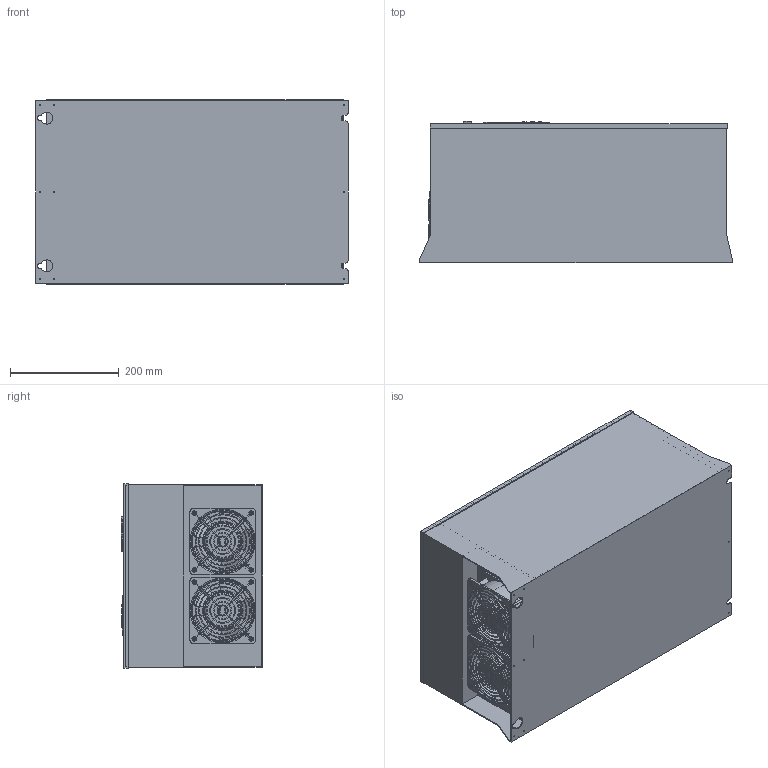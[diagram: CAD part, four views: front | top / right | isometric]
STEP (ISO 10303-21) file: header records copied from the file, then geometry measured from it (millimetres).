
FILE_DESCRIPTION(('FreeCAD Model'),'2;1');
FILE_NAME('Open CASCADE Shape Model','2022-05-10T10:35:04',( 'Engenharia Metaltex'),('Metaltex'), 'Open CASCADE STEP processor 7.5','FreeCAD','Unknown');
FILE_SCHEMA(('AUTOMOTIVE_DESIGN { 1 0 10303 214 1 1 1 1 }'));
Length unit declared in the file: millimetre
Products named in the file (11): IF20-5100-3; Body; Fan 2; Fan 1; Logo; Tampa; Corte; Fan Cover 2; Moldura; IHM; Fan Cover 1
Assembly tree (10 placements, depth 2):
  IF20-5100-3
    Body
    Fan 2
    Fan 1
    Logo
    Tampa
    Corte
    Fan Cover 2
    Moldura
    IHM
    Fan Cover 1
Bounding box: 575 x 261.1 x 339 mm (x, y, z)
Volume: 4513108.9 mm3; surface area: 1877476.6 mm2
Topology: 29 solids, 29 shells, 1808 faces, 4750 edges, 3102 vertices
Faces by surface type: plane 1166, cylinder 334, torus 208, bspline 96, cone 4
Full cylindrical faces by diameter (mm): 2 x9, 2.25 x2, 6 x1
Entity records: 152023 total; most frequent: CARTESIAN_POINT 58141, DIRECTION 16746, LINE 11208, VECTOR 11208, ORIENTED_EDGE 9452, PCURVE 9452, DEFINITIONAL_REPRESENTATION 9452, EDGE_CURVE 4726
